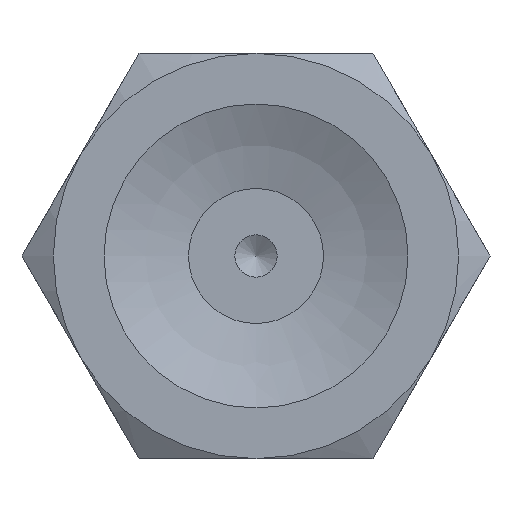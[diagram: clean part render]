
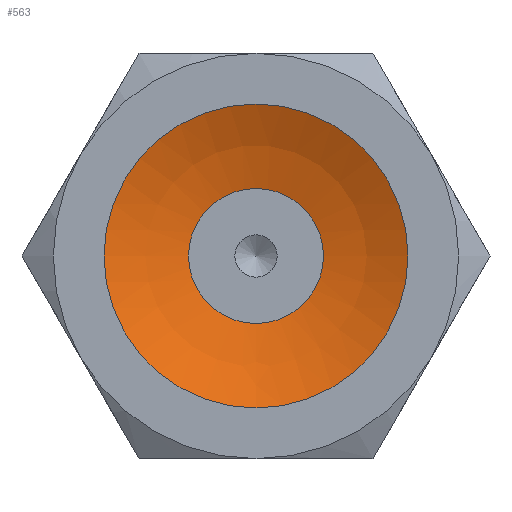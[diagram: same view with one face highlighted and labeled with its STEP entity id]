
A CAD part, front view. The second image highlights one B-rep face of the part: STEP entity #563.
In plain terms, the highlighted spherical face has radius 10.203 mm.
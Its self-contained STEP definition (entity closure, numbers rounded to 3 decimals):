
#563=ADVANCED_FACE('',(#839,#840),#841,.F.);
#839=FACE_OUTER_BOUND('',#1136,.T.);
#840=FACE_OUTER_BOUND('',#1137,.T.);
#841=SPHERICAL_SURFACE('',#1138,10.203);
#1136=EDGE_LOOP('',(#1858));
#1137=EDGE_LOOP('',(#1859));
#1138=AXIS2_PLACEMENT_3D('',#1860,#1861,#1862);
#1858=ORIENTED_EDGE('',*,*,#2101,.T.);
#1859=ORIENTED_EDGE('',*,*,#2102,.F.);
#1860=CARTESIAN_POINT('',(0.,-9.157,0.));
#1861=DIRECTION('',(0.0,-1.0,0.));
#1862=DIRECTION('',(1.0,0.0,0.0));
#2101=EDGE_CURVE('',#2423,#2423,#2424,.T.);
#2102=EDGE_CURVE('',#2425,#2425,#2426,.T.);
#2423=VERTEX_POINT('',#3317);
#2424=CIRCLE('',#3318,4.5);
#2425=VERTEX_POINT('',#3319);
#2426=CIRCLE('',#3320,2.);
#3317=CARTESIAN_POINT('',(0.0,0.,-4.5));
#3318=AXIS2_PLACEMENT_3D('',#3622,#3623,#3624);
#3319=CARTESIAN_POINT('',(0.0,0.848,-2.));
#3320=AXIS2_PLACEMENT_3D('',#3625,#3626,#3627);
#3622=CARTESIAN_POINT('',(0.0,0.,0.0));
#3623=DIRECTION('',(0.0,-1.0,0.));
#3624=DIRECTION('',(0.0,0.,-1.0));
#3625=CARTESIAN_POINT('',(0.0,0.848,0.0));
#3626=DIRECTION('',(0.0,-1.0,0.));
#3627=DIRECTION('',(0.0,0.,-1.0));
